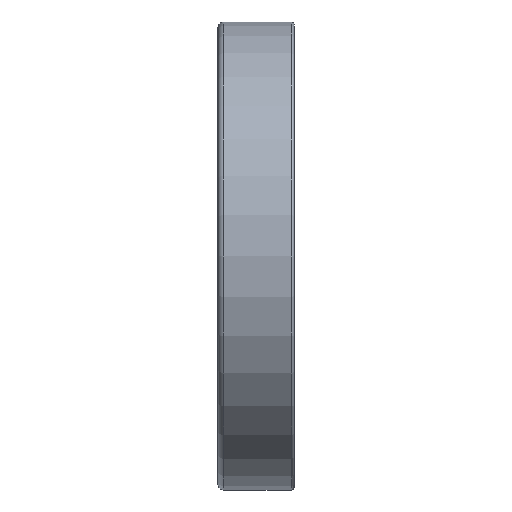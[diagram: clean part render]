
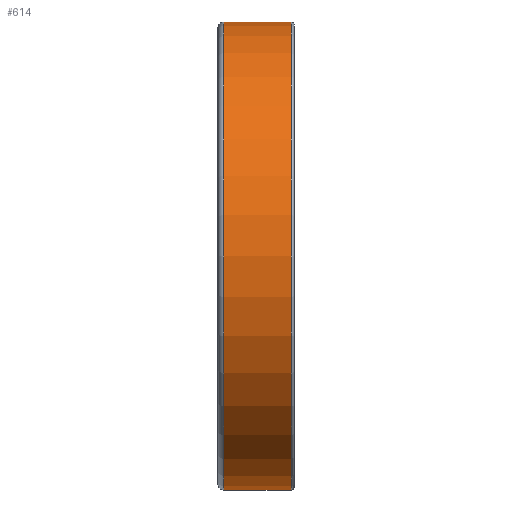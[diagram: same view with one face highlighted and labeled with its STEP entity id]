
A CAD part, front view. The second image highlights one B-rep face of the part: STEP entity #614.
In plain terms, the highlighted cylindrical face has radius 80 mm (diameter 160 mm), a full revolution.
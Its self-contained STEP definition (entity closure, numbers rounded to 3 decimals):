
#179=CYLINDRICAL_SURFACE('',#974,80.);
#295=EDGE_LOOP('',(#423));
#296=EDGE_LOOP('',(#424));
#423=ORIENTED_EDGE('',*,*,#495,.F.);
#424=ORIENTED_EDGE('',*,*,#493,.T.);
#493=EDGE_CURVE('',#893,#893,#513,.T.);
#495=EDGE_CURVE('',#895,#895,#515,.T.);
#513=CIRCLE('',#970,80.);
#515=CIRCLE('',#973,80.);
#614=ADVANCED_FACE('',(#779,#780),#179,.T.);
#779=FACE_BOUND('',#295,.T.);
#780=FACE_BOUND('',#296,.T.);
#893=VERTEX_POINT('',#2082);
#895=VERTEX_POINT('',#2087);
#970=AXIS2_PLACEMENT_3D('',#2081,#1110,#1111);
#973=AXIS2_PLACEMENT_3D('',#2086,#1116,#1117);
#974=AXIS2_PLACEMENT_3D('',#2088,#1118,#1119);
#1110=DIRECTION('',(1.,0.,0.));
#1111=DIRECTION('',(0.,0.,-1.));
#1116=DIRECTION('',(1.,0.,0.));
#1117=DIRECTION('',(0.,0.,-1.));
#1118=DIRECTION('',(1.,0.,0.));
#1119=DIRECTION('',(0.,0.,-1.));
#2081=CARTESIAN_POINT('',(-11.,0.,0.));
#2082=CARTESIAN_POINT('',(-11.,0.,-80.));
#2086=CARTESIAN_POINT('',(12.,0.,0.));
#2087=CARTESIAN_POINT('',(12.,0.,-80.));
#2088=CARTESIAN_POINT('',(-11.,0.,0.));
